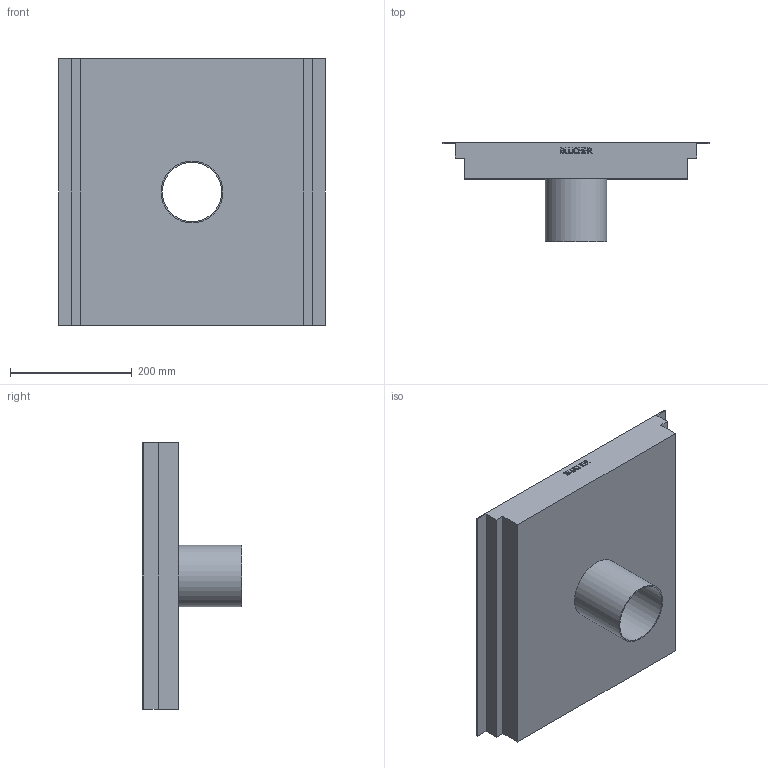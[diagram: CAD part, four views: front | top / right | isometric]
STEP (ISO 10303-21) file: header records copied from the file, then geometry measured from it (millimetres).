
FILE_DESCRIPTION((''),'2;1');
FILE_NAME('I:\WATTS\3D_CAD\3D_CAD_Models\Blucher_Drains\BKC_KitchenChannels\BKC-100\WebsiteFiles\3D\STEP\BKC-104-2.stp','2009-11-23T15:48:08',('menesek'),(''),'Autodesk Inventor 2010','Autodesk Inventor 2010','');
FILE_SCHEMA(('AUTOMOTIVE_DESIGN { 1 0 10303 214 1 1 1 1 }'));
Length unit declared in the file: inch
Products named in the file (1): BKC-104-2
Bounding box: 437 x 163 x 437 mm (x, y, z)
Volume: 619864.9 mm3; surface area: 624100.6 mm2
Topology: 1 solids, 1 shells, 142 faces, 384 edges, 256 vertices
Faces by surface type: plane 95, bspline 45, cylinder 2
Full cylindrical faces by diameter (mm): 97.6 x1, 101.6 x1
Entity records: 4799 total; most frequent: CARTESIAN_POINT 1501, ORIENTED_EDGE 764, DIRECTION 492, EDGE_CURVE 382, VECTOR 288, LINE 288, VERTEX_POINT 256, EDGE_LOOP 158
